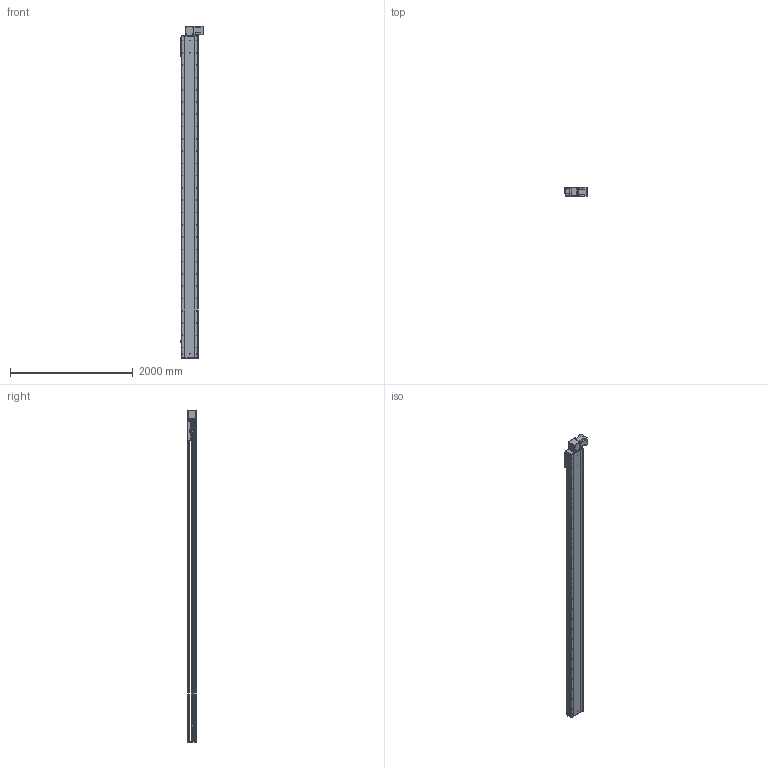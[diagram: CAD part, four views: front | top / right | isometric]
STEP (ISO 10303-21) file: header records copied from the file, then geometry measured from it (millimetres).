
FILE_DESCRIPTION (( 'STEP AP214' ), '1' );
FILE_NAME ('RTB28S-XX-4800-BL-M100-XX-C4.STEP', '2025-12-22T02:48:41', ( '' ), ( '' ), 'SwSTEP 2.0', 'SolidWorks 2018', '' );
FILE_SCHEMA (( 'AUTOMOTIVE_DESIGN' ));
Length unit declared in the file: millimetre
Products named in the file (4): RTB28S-GY-008^RTB28S-XX-XX-BL-M100-XX-C4; RTB28S-GY-004^RTB28S-XX-XX-BL-M100-XX-C4; RTB28S-XX-4800-BL-M100-XX-C4; RTB28S-GY-011^RTB28S-XX-XX-BL-M100-XX-C4
Assembly tree (3 placements, depth 2):
  RTB28S-XX-4800-BL-M100-XX-C4
    RTB28S-GY-011^RTB28S-XX-XX-BL-M100-XX-C4
    RTB28S-GY-004^RTB28S-XX-XX-BL-M100-XX-C4
    RTB28S-GY-008^RTB28S-XX-XX-BL-M100-XX-C4
Bounding box: 380.7 x 145 x 5407 mm (x, y, z)
Volume: 89454947.6 mm3; surface area: 8262036.8 mm2
Topology: 3 solids, 4 shells, 978 faces, 2658 edges, 1708 vertices
Faces by surface type: cylinder 511, plane 383, cone 80, torus 4
Entity records: 38747 total; most frequent: CARTESIAN_POINT 7852, DIRECTION 5676, ORIENTED_EDGE 5252, EDGE_CURVE 2626, AXIS2_PLACEMENT_3D 2128, VERTEX_POINT 1708, LINE 1420, VECTOR 1420
